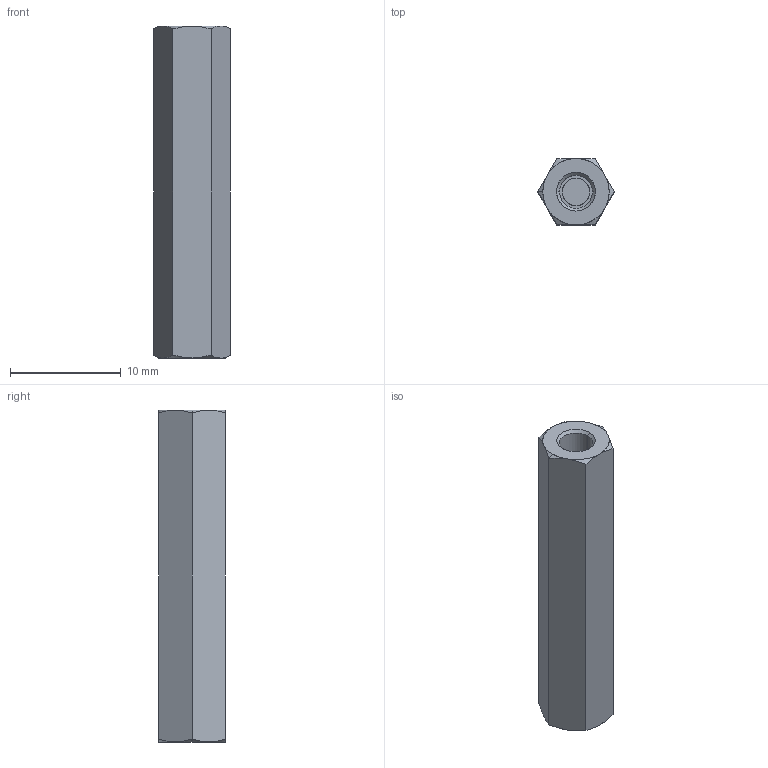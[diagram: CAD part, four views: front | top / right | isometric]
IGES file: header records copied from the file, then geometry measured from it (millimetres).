
Start section: SolidWorks IGES file using analytic representation for surfaces
Global section: file name: C:\Users\ianosborn\Desktop\N0503.NP_v2\N0503.NP_v2_20250227_IGES\N0503.030-030-NP.igs; native system: SolidWorks 2019; preprocessor: SolidWorks 2019; author: IanOsborn; date: 250227.144150; units: millimetre
Bounding box: 6.93 x 6 x 30 mm (x, y, z)
Surface area: 881.4 mm2 (no closed solid volume)
Topology: 0 solids, 0 shells, 39 faces, 478 edges, 476 vertices
Faces by surface type: revolution 28, bspline 11
